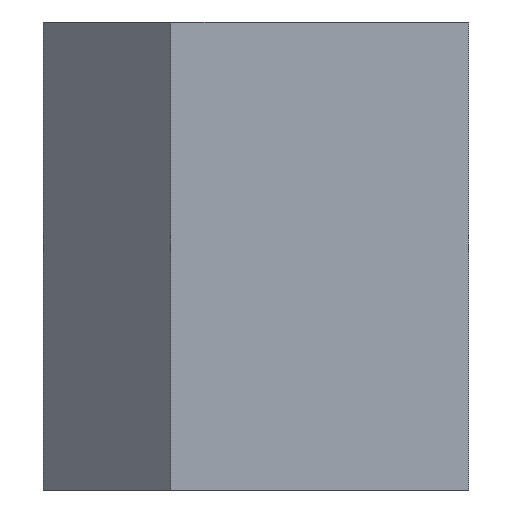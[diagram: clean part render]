
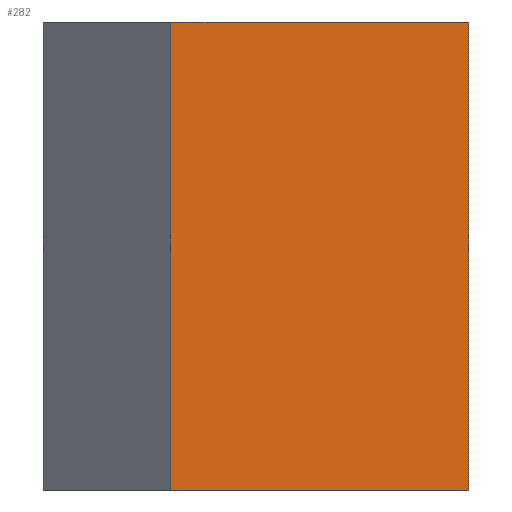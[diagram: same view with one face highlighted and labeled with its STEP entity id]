
A CAD part, left-side view. The second image highlights one B-rep face of the part: STEP entity #282.
In plain terms, the highlighted planar face has unit normal (-1, 0, 0).
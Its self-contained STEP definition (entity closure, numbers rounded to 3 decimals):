
#54=FACE_OUTER_BOUND('',#74,.T.);
#74=EDGE_LOOP('',(#237,#238,#239,#240));
#88=LINE('',#415,#112);
#101=LINE('',#464,#125);
#102=LINE('',#467,#126);
#103=LINE('',#468,#127);
#112=VECTOR('',#334,10.);
#125=VECTOR('',#387,10.);
#126=VECTOR('',#390,10.);
#127=VECTOR('',#391,10.);
#136=VERTEX_POINT('',#412);
#137=VERTEX_POINT('',#414);
#153=VERTEX_POINT('',#462);
#154=VERTEX_POINT('',#466);
#160=EDGE_CURVE('',#136,#137,#88,.T.);
#185=EDGE_CURVE('',#153,#137,#101,.T.);
#186=EDGE_CURVE('',#154,#153,#102,.T.);
#187=EDGE_CURVE('',#154,#136,#103,.T.);
#237=ORIENTED_EDGE('',*,*,#186,.T.);
#238=ORIENTED_EDGE('',*,*,#185,.T.);
#239=ORIENTED_EDGE('',*,*,#160,.F.);
#240=ORIENTED_EDGE('',*,*,#187,.F.);
#268=PLANE('',#322);
#282=ADVANCED_FACE('',(#54),#268,.T.);
#322=AXIS2_PLACEMENT_3D('',#465,#388,#389);
#334=DIRECTION('',(0.,-1.,0.));
#387=DIRECTION('',(0.,0.,1.));
#388=DIRECTION('center_axis',(-1.,0.,0.));
#389=DIRECTION('ref_axis',(0.,-1.,0.));
#390=DIRECTION('',(0.,-1.,0.));
#391=DIRECTION('',(0.,0.,1.));
#412=CARTESIAN_POINT('',(-175.,37.,14.));
#414=CARTESIAN_POINT('',(-175.,30.,14.));
#415=CARTESIAN_POINT('',(-175.,37.,14.));
#462=CARTESIAN_POINT('',(-175.,30.,3.));
#464=CARTESIAN_POINT('',(-175.,30.,3.));
#465=CARTESIAN_POINT('Origin',(-175.,37.,3.));
#466=CARTESIAN_POINT('',(-175.,37.,3.));
#467=CARTESIAN_POINT('',(-175.,37.,3.));
#468=CARTESIAN_POINT('',(-175.,37.,3.));
